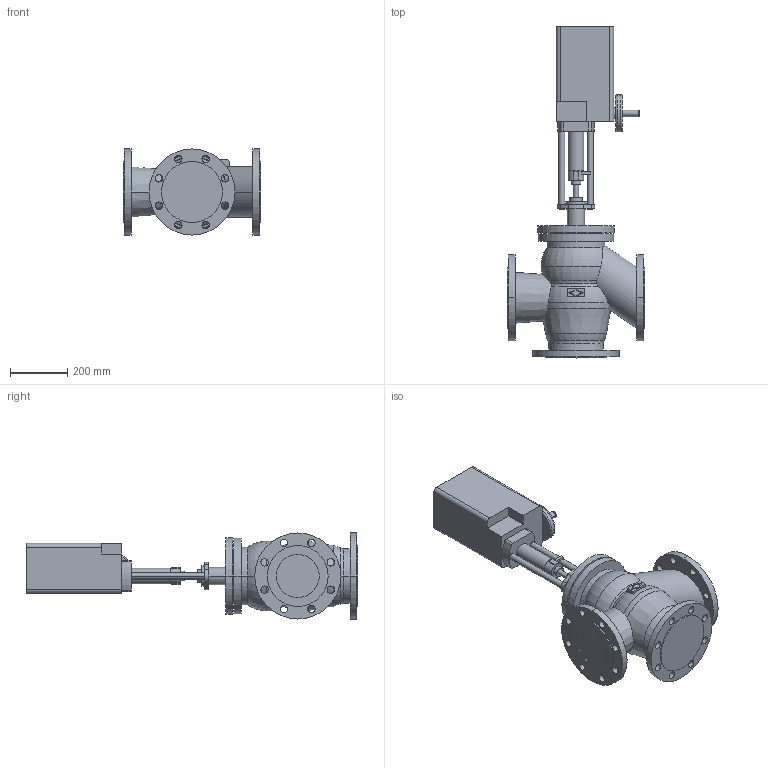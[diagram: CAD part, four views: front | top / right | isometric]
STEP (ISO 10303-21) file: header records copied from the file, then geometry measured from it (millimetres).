
FILE_DESCRIPTION(('OneSpaceDesigner STEP Export'),'2;1');
FILE_NAME('c000002415.stp','2006-09-19T12:08:47',(''),(''),'OneSpace Designer STEP processor for AP214 (Solid Model)','OneSpace Designer 13.20A 18-Aug-2005 (C) CoCreate Software GmbH','');
FILE_SCHEMA(('AUTOMOTIVE_DESIGN { 1 0 10303 214 1 1 1 1 }'));
Length unit declared in the file: millimetre
Products named in the file (2): 1; 2
Bounding box: 480 x 1157.5 x 300 mm (x, y, z)
Volume: 41714187 mm3; surface area: 1441194.1 mm2
Topology: 2 solids, 2 shells, 222 faces, 550 edges, 363 vertices
Faces by surface type: cylinder 114, plane 82, torus 22, cone 4
Entity records: 6175 total; most frequent: CARTESIAN_POINT 1237, ORIENTED_EDGE 1100, DIRECTION 895, EDGE_CURVE 550, VERTEX_POINT 363, AXIS2_PLACEMENT_3D 329, EDGE_LOOP 301, VECTOR 237
